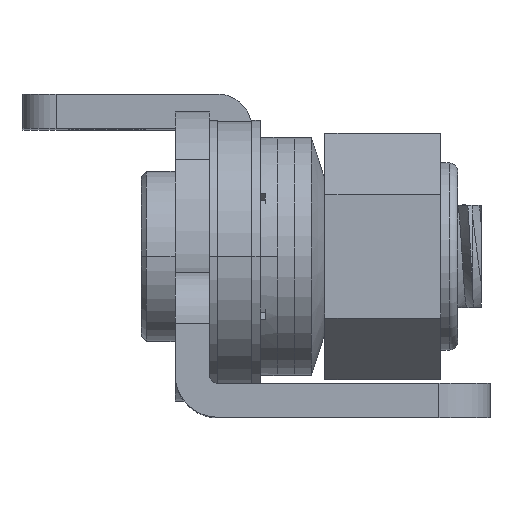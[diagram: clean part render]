
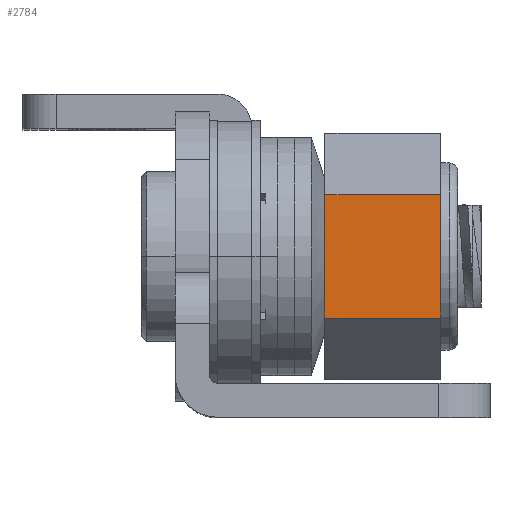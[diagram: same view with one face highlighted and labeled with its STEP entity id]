
A CAD part, top view. The second image highlights one B-rep face of the part: STEP entity #2784.
In plain terms, the highlighted planar face has unit normal (0, 0, 1).
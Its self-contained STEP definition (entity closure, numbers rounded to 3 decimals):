
#344 = CARTESIAN_POINT ( 'NONE',  ( 8.849, 13.174, -26.721 ) ) ;
#409 = DIRECTION ( 'NONE',  ( 0., -1., 0. ) ) ;
#1559 = CARTESIAN_POINT ( 'NONE',  ( 8.849, 13.174, -26.721 ) ) ;
#2036 = EDGE_CURVE ( 'NONE', #11739, #4953, #9703, .T. ) ;
#2098 = DIRECTION ( 'NONE',  ( 1., 0., 0. ) ) ;
#2427 = LINE ( 'NONE', #1559, #10211 ) ;
#2784 = ADVANCED_FACE ( 'NONE', ( #4967 ), #8725, .T. ) ;
#3945 = ORIENTED_EDGE ( 'NONE', *, *, #11817, .T. ) ;
#3952 = VECTOR ( 'NONE', #9835, 1000. ) ;
#4727 = ORIENTED_EDGE ( 'NONE', *, *, #8824, .T. ) ;
#4953 = VERTEX_POINT ( 'NONE', #8206 ) ;
#4967 = FACE_OUTER_BOUND ( 'NONE', #9548, .T. ) ;
#5573 = CARTESIAN_POINT ( 'NONE',  ( 8.849, 13.174, -26.721 ) ) ;
#5935 = DIRECTION ( 'NONE',  ( 0., 0., 1. ) ) ;
#6713 = LINE ( 'NONE', #10417, #7297 ) ;
#7013 = AXIS2_PLACEMENT_3D ( 'NONE', #344, #5935, #409 ) ;
#7028 = DIRECTION ( 'NONE',  ( 1., 0., 0. ) ) ;
#7122 = VERTEX_POINT ( 'NONE', #11303 ) ;
#7297 = VECTOR ( 'NONE', #2098, 1000. ) ;
#8090 = ORIENTED_EDGE ( 'NONE', *, *, #9114, .F. ) ;
#8206 = CARTESIAN_POINT ( 'NONE',  ( 15.649, 5.924, -26.721 ) ) ;
#8725 = PLANE ( 'NONE',  #7013 ) ;
#8824 = EDGE_CURVE ( 'NONE', #9038, #7122, #2427, .T. ) ;
#9038 = VERTEX_POINT ( 'NONE', #5573 ) ;
#9114 = EDGE_CURVE ( 'NONE', #9038, #11739, #6713, .T. ) ;
#9371 = VECTOR ( 'NONE', #7028, 1000. ) ;
#9548 = EDGE_LOOP ( 'NONE', ( #3945, #11226, #8090, #4727 ) ) ;
#9703 = LINE ( 'NONE', #11703, #3952 ) ;
#9759 = LINE ( 'NONE', #10797, #9371 ) ;
#9835 = DIRECTION ( 'NONE',  ( 0., -1., 0. ) ) ;
#10211 = VECTOR ( 'NONE', #11763, 1000. ) ;
#10417 = CARTESIAN_POINT ( 'NONE',  ( 8.849, 13.174, -26.721 ) ) ;
#10484 = CARTESIAN_POINT ( 'NONE',  ( 15.649, 13.174, -26.721 ) ) ;
#10797 = CARTESIAN_POINT ( 'NONE',  ( 8.849, 5.924, -26.721 ) ) ;
#11226 = ORIENTED_EDGE ( 'NONE', *, *, #2036, .F. ) ;
#11303 = CARTESIAN_POINT ( 'NONE',  ( 8.849, 5.924, -26.721 ) ) ;
#11703 = CARTESIAN_POINT ( 'NONE',  ( 15.649, 13.174, -26.721 ) ) ;
#11739 = VERTEX_POINT ( 'NONE', #10484 ) ;
#11763 = DIRECTION ( 'NONE',  ( 0., -1., 0. ) ) ;
#11817 = EDGE_CURVE ( 'NONE', #7122, #4953, #9759, .T. ) ;
